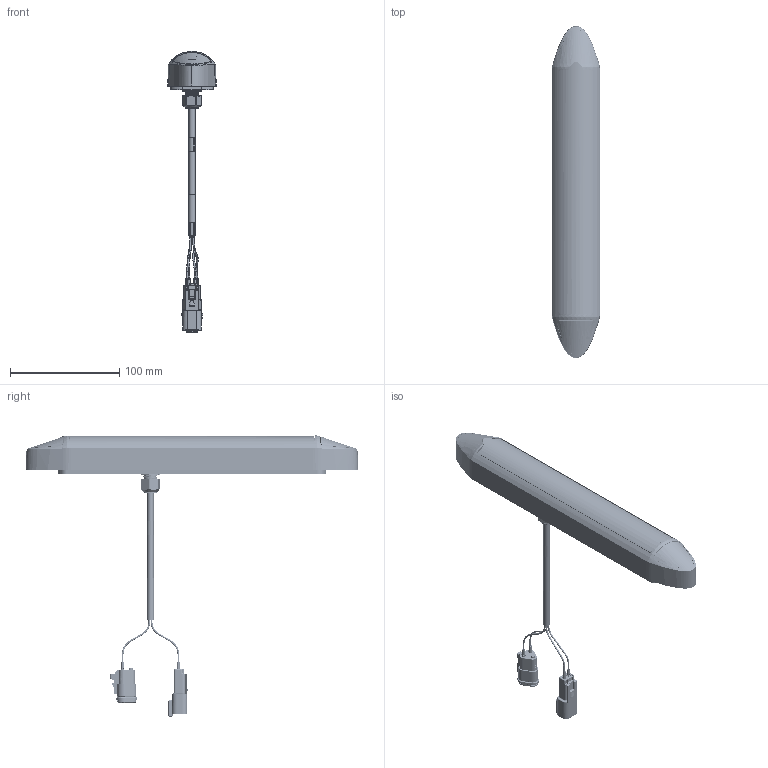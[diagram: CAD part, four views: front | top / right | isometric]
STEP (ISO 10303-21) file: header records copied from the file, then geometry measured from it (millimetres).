
FILE_DESCRIPTION (( 'STEP AP214' ), '1' );
FILE_NAME ('3050854-XX-XX-XX.STEP', '2021-11-18T18:36:14', ( '' ), ( '' ), 'SwSTEP 2.0', 'SolidWorks 2019', '' );
FILE_SCHEMA (( 'AUTOMOTIVE_DESIGN' ));
Length unit declared in the file: inch
Products named in the file (32): 3030807-XX; 4090213; 4008399; 4012016; 3101772-XX; 3002851; 4008117; CG-30-BODY-01^CG-30-BODY; 4008116; 4012020; Z4090213-wire-02; Z3101795-2 ; 3102632; 4008095; 3100933; CG-30-BODY-02^CG-30-BODY; Z3101795-1; 3101795-XX-XX-XX; Z4090213-wire-01; 3050854-XX-XX-XX; 4051157; 3100931; 4008081; 3102640; 4012116; 3100938; CG-30-BODY-03^CG-30-BODY; 4008094; 3100773; 4008080; 4008093; CG-30-BODY
Assembly tree (48 placements, depth 5):
  3050854-XX-XX-XX
    3030807-XX
      3100931
      3100933
      3100938
      3100773
      3002851
      4008399
        CG-30-BODY
          CG-30-BODY-01^CG-30-BODY
          CG-30-BODY-02^CG-30-BODY
          CG-30-BODY-03^CG-30-BODY
      4051157  x12
      4090213
        4012116
        Z4090213-wire-01  x4
        Z4090213-wire-02
        4012020
        4012016
      3102632  x2
      3102640
    3101772-XX
    3101795-XX-XX-XX
      Z3101795-1
      Z3101795-2 
    4008093  x2
    4008094  x2
    4008116
    4008081
    4008095
    4008117
    4008080
Bounding box: 44.25 x 303.73 x 257.18 mm (x, y, z)
Volume: 182213.1 mm3; surface area: 226133.3 mm2
Topology: 33 solids, 70 shells, 4671 faces, 12152 edges, 7615 vertices
Faces by surface type: cylinder 1795, plane 1247, bspline 851, cone 563, torus 130, sphere 85
Entity records: 162802 total; most frequent: CARTESIAN_POINT 89945, ORIENTED_EDGE 16327, DIRECTION 12295, EDGE_CURVE 8169, VERTEX_POINT 5126, AXIS2_PLACEMENT_3D 4397, VECTOR 3501, LINE 3501
